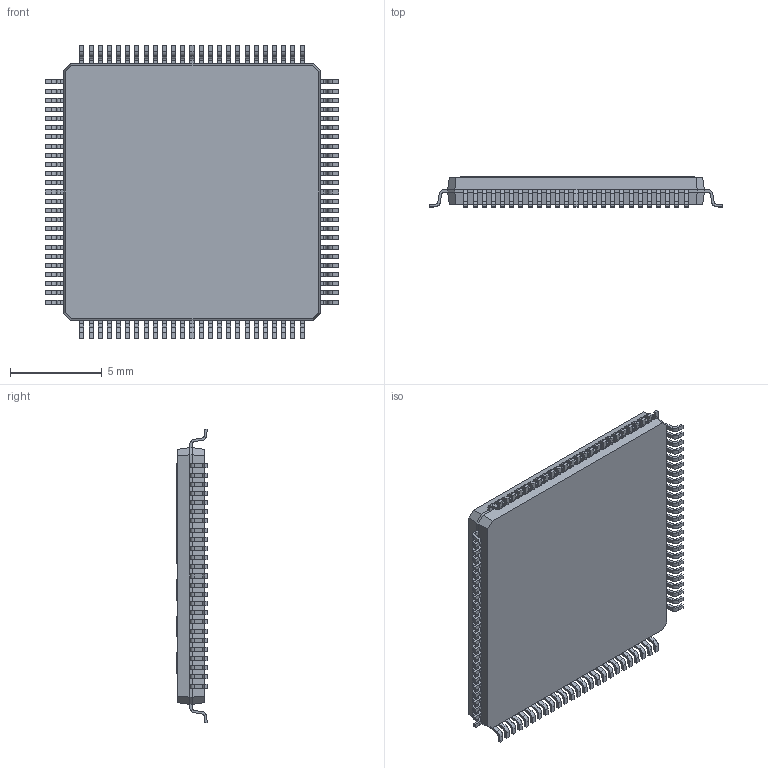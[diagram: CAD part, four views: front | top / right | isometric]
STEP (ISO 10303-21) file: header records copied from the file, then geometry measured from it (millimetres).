
FILE_DESCRIPTION(/* description */ ('STEP AP214'),/* implementation_level */ '2;1');
FILE_NAME(/* name */ 'MergenElektronik_TexasInstruments_C2000_C28x_100-LQFP_F280049CPZS.step',/* time_stamp */ '2025-04-21T22:48:51+03:00',/* author */ (''),/* organization */ (''),/* preprocessor_version */ 'ST-DEVELOPER v20.1',/* originating_system */ 'Autodesk Translation Framework v14.4.0.0',/* authorisation */ '');
FILE_SCHEMA (('AUTOMOTIVE_DESIGN { 1 0 10303 214 3 1 1 }'));
Products named in the file (1): PZ100 (4040149-B-11-96)
Bounding box: 16 x 1.65 x 16 mm (x, y, z)
Volume: 285.7 mm3; surface area: 590.3 mm2
Topology: 102 solids, 102 shells, 2756 faces, 7439 edges, 4954 vertices
Faces by surface type: plane 1519, bspline 835, cylinder 402
Full cylindrical faces by diameter (mm): 0.8 x2
Entity records: 92707 total; most frequent: CARTESIAN_POINT 28739, ORIENTED_EDGE 14878, DIRECTION 10408, EDGE_CURVE 7439, LINE 4956, VECTOR 4956, VERTEX_POINT 4954, EDGE_LOOP 2823
